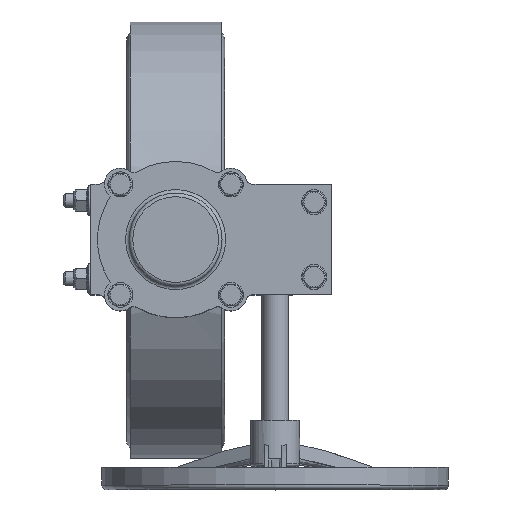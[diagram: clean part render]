
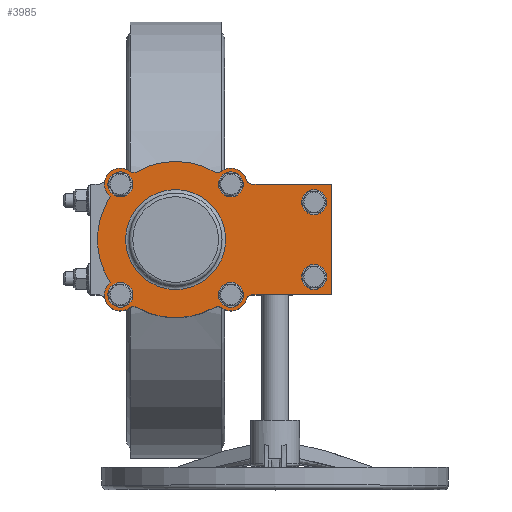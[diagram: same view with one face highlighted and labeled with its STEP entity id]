
A CAD part, top view. The second image highlights one B-rep face of the part: STEP entity #3985.
In plain terms, the highlighted planar face has unit normal (0, 0, 1).
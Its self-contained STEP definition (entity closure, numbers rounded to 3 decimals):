
#3985=ADVANCED_FACE('',(#8162,#8164,#8166,#8168,#8170,#8172,#8174,#8176),#8178,.T.);
#8162=FACE_BOUND('',#8163,.T.);
#8163=EDGE_LOOP('',(#14997,#14998,#14999,#15000,#15001,#15002,#15003,#15004,#15005,
#15006,#15007,#15008,#15009,#15010,#15011,#15012));
#8164=FACE_BOUND('',#8165,.T.);
#8165=EDGE_LOOP('',(#15013));
#8166=FACE_BOUND('',#8167,.T.);
#8167=EDGE_LOOP('',(#15014));
#8168=FACE_BOUND('',#8169,.T.);
#8169=EDGE_LOOP('',(#15015));
#8170=FACE_BOUND('',#8171,.T.);
#8171=EDGE_LOOP('',(#15016));
#8172=FACE_BOUND('',#8173,.T.);
#8173=EDGE_LOOP('',(#15017));
#8174=FACE_BOUND('',#8175,.T.);
#8175=EDGE_LOOP('',(#15018));
#8176=FACE_BOUND('',#8177,.T.);
#8177=EDGE_LOOP('',(#15019));
#8178=PLANE('',#8179);
#8179=AXIS2_PLACEMENT_3D('',#8180,#8181,#8182);
#8180=CARTESIAN_POINT('',(0.,0.,8.));
#8181=DIRECTION('',(0.,0.,1.));
#8182=DIRECTION('',(0.,1.,0.));
#14997=ORIENTED_EDGE('',*,*,#16864,.T.);
#14998=ORIENTED_EDGE('',*,*,#16865,.T.);
#14999=ORIENTED_EDGE('',*,*,#16866,.T.);
#15000=ORIENTED_EDGE('',*,*,#16867,.T.);
#15001=ORIENTED_EDGE('',*,*,#16868,.T.);
#15002=ORIENTED_EDGE('',*,*,#16869,.T.);
#15003=ORIENTED_EDGE('',*,*,#16870,.T.);
#15004=ORIENTED_EDGE('',*,*,#16871,.T.);
#15005=ORIENTED_EDGE('',*,*,#16872,.T.);
#15006=ORIENTED_EDGE('',*,*,#16873,.T.);
#15007=ORIENTED_EDGE('',*,*,#16874,.T.);
#15008=ORIENTED_EDGE('',*,*,#16875,.T.);
#15009=ORIENTED_EDGE('',*,*,#16876,.T.);
#15010=ORIENTED_EDGE('',*,*,#16877,.T.);
#15011=ORIENTED_EDGE('',*,*,#16878,.T.);
#15012=ORIENTED_EDGE('',*,*,#16879,.T.);
#15013=ORIENTED_EDGE('',*,*,#16880,.T.);
#15014=ORIENTED_EDGE('',*,*,#16881,.T.);
#15015=ORIENTED_EDGE('',*,*,#16882,.T.);
#15016=ORIENTED_EDGE('',*,*,#16883,.T.);
#15017=ORIENTED_EDGE('',*,*,#16884,.T.);
#15018=ORIENTED_EDGE('',*,*,#16885,.T.);
#15019=ORIENTED_EDGE('',*,*,#16886,.F.);
#16864=EDGE_CURVE('',#19171,#19172,#19173,.T.);
#16865=EDGE_CURVE('',#19172,#19174,#19175,.T.);
#16866=EDGE_CURVE('',#19174,#19176,#19177,.T.);
#16867=EDGE_CURVE('',#19176,#19178,#19179,.T.);
#16868=EDGE_CURVE('',#19178,#19180,#19181,.T.);
#16869=EDGE_CURVE('',#19180,#19182,#19183,.T.);
#16870=EDGE_CURVE('',#19182,#19184,#19185,.T.);
#16871=EDGE_CURVE('',#19184,#19186,#19187,.T.);
#16872=EDGE_CURVE('',#19186,#19188,#19189,.T.);
#16873=EDGE_CURVE('',#19188,#19190,#19191,.T.);
#16874=EDGE_CURVE('',#19190,#19192,#19193,.T.);
#16875=EDGE_CURVE('',#19192,#19194,#19195,.T.);
#16876=EDGE_CURVE('',#19194,#19196,#19197,.T.);
#16877=EDGE_CURVE('',#19196,#19198,#19199,.T.);
#16878=EDGE_CURVE('',#19198,#19200,#19201,.T.);
#16879=EDGE_CURVE('',#19200,#19171,#19202,.T.);
#16880=EDGE_CURVE('',#19203,#19203,#19204,.F.);
#16881=EDGE_CURVE('',#19205,#19205,#19206,.F.);
#16882=EDGE_CURVE('',#19207,#19207,#19208,.F.);
#16883=EDGE_CURVE('',#19209,#19209,#19210,.F.);
#16884=EDGE_CURVE('',#19211,#19211,#19212,.F.);
#16885=EDGE_CURVE('',#19213,#19213,#19214,.F.);
#16886=EDGE_CURVE('',#19215,#19215,#19216,.T.);
#19171=VERTEX_POINT('',#26766);
#19172=VERTEX_POINT('',#26767);
#19173=CIRCLE('',#26768,8.);
#19174=VERTEX_POINT('',#26772);
#19175=CIRCLE('',#26773,18.);
#19176=VERTEX_POINT('',#26777);
#19177=CIRCLE('',#26778,8.);
#19178=VERTEX_POINT('',#26782);
#19179=LINE('',#26783,#26784);
#19180=VERTEX_POINT('',#26786);
#19181=LINE('',#26787,#26788);
#19182=VERTEX_POINT('',#26790);
#19183=LINE('',#26791,#26792);
#19184=VERTEX_POINT('',#26794);
#19185=CIRCLE('',#26795,8.);
#19186=VERTEX_POINT('',#26799);
#19187=CIRCLE('',#26800,18.);
#19188=VERTEX_POINT('',#26804);
#19189=CIRCLE('',#26805,8.);
#19190=VERTEX_POINT('',#26809);
#19191=CIRCLE('',#26810,87.5);
#19192=VERTEX_POINT('',#26814);
#19193=CIRCLE('',#26815,8.);
#19194=VERTEX_POINT('',#26819);
#19195=CIRCLE('',#26820,18.);
#19196=VERTEX_POINT('',#26824);
#19197=CIRCLE('',#26825,87.5);
#19198=VERTEX_POINT('',#26829);
#19199=CIRCLE('',#26830,18.);
#19200=VERTEX_POINT('',#26834);
#19201=CIRCLE('',#26835,8.);
#19202=CIRCLE('',#26839,87.5);
#19203=VERTEX_POINT('',#26843);
#19204=CIRCLE('',#26844,8.);
#19205=VERTEX_POINT('',#26848);
#19206=CIRCLE('',#26849,8.);
#19207=VERTEX_POINT('',#26853);
#19208=CIRCLE('',#26854,8.);
#19209=VERTEX_POINT('',#26858);
#19210=CIRCLE('',#26859,8.);
#19211=VERTEX_POINT('',#26863);
#19212=CIRCLE('',#26864,8.);
#19213=VERTEX_POINT('',#26868);
#19214=CIRCLE('',#26869,8.);
#19215=VERTEX_POINT('',#26873);
#19216=CIRCLE('',#26874,56.);
#26766=CARTESIAN_POINT('',(76.196,43.016,8.));
#26767=CARTESIAN_POINT('',(76.612,51.541,8.));
#26768=AXIS2_PLACEMENT_3D('',#26769,#26770,#26771);
#26769=CARTESIAN_POINT('',(83.163,46.949,8.));
#26770=DIRECTION('',(0.,0.,-1.));
#26771=DIRECTION('',(-0.871,-0.492,0.));
#26772=CARTESIAN_POINT('',(67.41,78.999,8.));
#26773=AXIS2_PLACEMENT_3D('',#26774,#26775,#26776);
#26774=CARTESIAN_POINT('',(61.872,61.872,8.));
#26775=DIRECTION('',(0.,0.,1.));
#26776=DIRECTION('',(0.819,-0.574,0.));
#26777=CARTESIAN_POINT('',(61.872,86.61,8.));
#26778=AXIS2_PLACEMENT_3D('',#26779,#26780,#26781);
#26779=CARTESIAN_POINT('',(69.872,86.61,8.));
#26780=DIRECTION('',(0.,0.,-1.));
#26781=DIRECTION('',(-0.308,-0.951,0.));
#26782=CARTESIAN_POINT('',(61.872,175.,8.));
#26783=CARTESIAN_POINT('',(61.872,86.61,8.));
#26784=VECTOR('',#26785,1.);
#26785=DIRECTION('',(0.,1.,0.));
#26786=CARTESIAN_POINT('',(-61.872,175.,8.));
#26787=CARTESIAN_POINT('',(61.872,175.,8.));
#26788=VECTOR('',#26789,1.);
#26789=DIRECTION('',(-1.,0.,0.));
#26790=CARTESIAN_POINT('',(-61.872,86.61,8.));
#26791=CARTESIAN_POINT('',(-61.872,175.,8.));
#26792=VECTOR('',#26793,1.);
#26793=DIRECTION('',(0.,-1.,0.));
#26794=CARTESIAN_POINT('',(-67.41,78.999,8.));
#26795=AXIS2_PLACEMENT_3D('',#26796,#26797,#26798);
#26796=CARTESIAN_POINT('',(-69.872,86.61,8.));
#26797=DIRECTION('',(0.,0.,-1.));
#26798=DIRECTION('',(1.,0.,0.));
#26799=CARTESIAN_POINT('',(-76.612,51.541,8.));
#26800=AXIS2_PLACEMENT_3D('',#26801,#26802,#26803);
#26801=CARTESIAN_POINT('',(-61.872,61.872,8.));
#26802=DIRECTION('',(0.,0.,1.));
#26803=DIRECTION('',(-0.308,0.951,0.));
#26804=CARTESIAN_POINT('',(-76.196,43.016,8.));
#26805=AXIS2_PLACEMENT_3D('',#26806,#26807,#26808);
#26806=CARTESIAN_POINT('',(-83.163,46.949,8.));
#26807=DIRECTION('',(0.,0.,-1.));
#26808=DIRECTION('',(0.819,0.574,0.));
#26809=CARTESIAN_POINT('',(-76.196,-43.016,8.));
#26810=AXIS2_PLACEMENT_3D('',#26811,#26812,#26813);
#26811=CARTESIAN_POINT('',(0.,0.,8.));
#26812=DIRECTION('',(0.,0.,1.));
#26813=DIRECTION('',(-0.871,0.492,0.));
#26814=CARTESIAN_POINT('',(-76.612,-51.541,8.));
#26815=AXIS2_PLACEMENT_3D('',#26816,#26817,#26818);
#26816=CARTESIAN_POINT('',(-83.163,-46.949,8.));
#26817=DIRECTION('',(0.,0.,-1.));
#26818=DIRECTION('',(0.871,0.492,0.));
#26819=CARTESIAN_POINT('',(-47.902,-73.223,8.));
#26820=AXIS2_PLACEMENT_3D('',#26821,#26822,#26823);
#26821=CARTESIAN_POINT('',(-61.872,-61.872,8.));
#26822=DIRECTION('',(0.,0.,1.));
#26823=DIRECTION('',(-0.819,0.574,0.));
#26824=CARTESIAN_POINT('',(47.902,-73.223,8.));
#26825=AXIS2_PLACEMENT_3D('',#26826,#26827,#26828);
#26826=CARTESIAN_POINT('',(0.,0.,8.));
#26827=DIRECTION('',(0.,0.,1.));
#26828=DIRECTION('',(-0.547,-0.837,0.));
#26829=CARTESIAN_POINT('',(76.612,-51.541,8.));
#26830=AXIS2_PLACEMENT_3D('',#26831,#26832,#26833);
#26831=CARTESIAN_POINT('',(61.872,-61.872,8.));
#26832=DIRECTION('',(0.,0.,1.));
#26833=DIRECTION('',(-0.776,-0.631,0.));
#26834=CARTESIAN_POINT('',(76.196,-43.016,8.));
#26835=AXIS2_PLACEMENT_3D('',#26836,#26837,#26838);
#26836=CARTESIAN_POINT('',(83.163,-46.949,8.));
#26837=DIRECTION('',(0.,0.,-1.));
#26838=DIRECTION('',(-0.819,-0.574,0.));
#26839=AXIS2_PLACEMENT_3D('',#26840,#26841,#26842);
#26840=CARTESIAN_POINT('',(0.,0.,8.));
#26841=DIRECTION('',(0.,0.,1.));
#26842=DIRECTION('',(0.871,-0.492,0.));
#26843=CARTESIAN_POINT('',(-33.872,155.,8.));
#26844=AXIS2_PLACEMENT_3D('',#26845,#26846,#26847);
#26845=CARTESIAN_POINT('',(-41.872,155.,8.));
#26846=DIRECTION('',(0.,0.,1.));
#26847=DIRECTION('',(1.,0.,0.));
#26848=CARTESIAN_POINT('',(49.872,155.,8.));
#26849=AXIS2_PLACEMENT_3D('',#26850,#26851,#26852);
#26850=CARTESIAN_POINT('',(41.872,155.,8.));
#26851=DIRECTION('',(0.,0.,1.));
#26852=DIRECTION('',(1.,0.,0.));
#26853=CARTESIAN_POINT('',(69.872,-61.872,8.));
#26854=AXIS2_PLACEMENT_3D('',#26855,#26856,#26857);
#26855=CARTESIAN_POINT('',(61.872,-61.872,8.));
#26856=DIRECTION('',(0.,0.,1.));
#26857=DIRECTION('',(1.,0.,0.));
#26858=CARTESIAN_POINT('',(-61.872,-69.872,8.));
#26859=AXIS2_PLACEMENT_3D('',#26860,#26861,#26862);
#26860=CARTESIAN_POINT('',(-61.872,-61.872,8.));
#26861=DIRECTION('',(0.,0.,1.));
#26862=DIRECTION('',(0.,-1.,0.));
#26863=CARTESIAN_POINT('',(-69.872,61.872,8.));
#26864=AXIS2_PLACEMENT_3D('',#26865,#26866,#26867);
#26865=CARTESIAN_POINT('',(-61.872,61.872,8.));
#26866=DIRECTION('',(0.,0.,1.));
#26867=DIRECTION('',(-1.,0.,0.));
#26868=CARTESIAN_POINT('',(61.872,69.872,8.));
#26869=AXIS2_PLACEMENT_3D('',#26870,#26871,#26872);
#26870=CARTESIAN_POINT('',(61.872,61.872,8.));
#26871=DIRECTION('',(0.,0.,1.));
#26872=DIRECTION('',(0.,1.,0.));
#26873=CARTESIAN_POINT('',(-56.,0.,8.));
#26874=AXIS2_PLACEMENT_3D('',#26875,#26876,#26877);
#26875=CARTESIAN_POINT('',(0.,0.,8.));
#26876=DIRECTION('',(0.,0.,1.));
#26877=DIRECTION('',(-1.,0.,0.));
